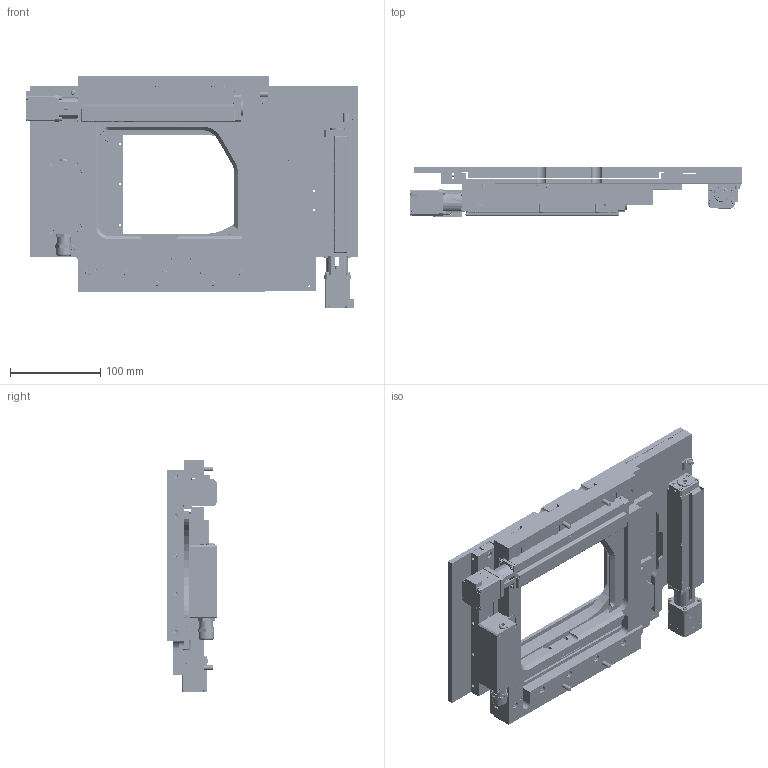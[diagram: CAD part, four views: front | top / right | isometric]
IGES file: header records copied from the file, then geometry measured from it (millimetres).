
Start section: SolidWorks IGES file using analytic representation for surfaces
Global section: file name: C:\1-DATA-FILES-FOR-PROJECTS\2022-PRODUCT-REFERENCE-MODELS\6-SECOND-BATCH-STAGES\13-H117P2XD\2-H117P2XD-PARTS\H117P2XD_REFERENCE-IGES.IGS; native system: SolidWorks 2019; preprocessor: SolidWorks 2019; author: jwilliams; date: 220209.091348; units: inch
Bounding box: 367.91 x 54.6 x 257.05 mm (x, y, z)
Surface area: 561073.8 mm2 (no closed solid volume)
Topology: 0 solids, 0 shells, 5772 faces, 69516 edges, 69382 vertices
Faces by surface type: bspline 3338, revolution 2434
